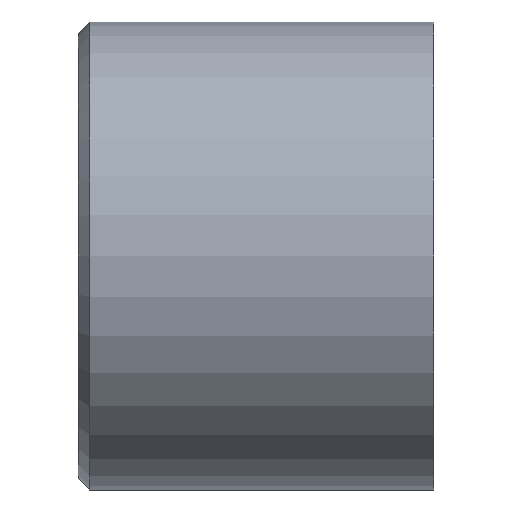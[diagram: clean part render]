
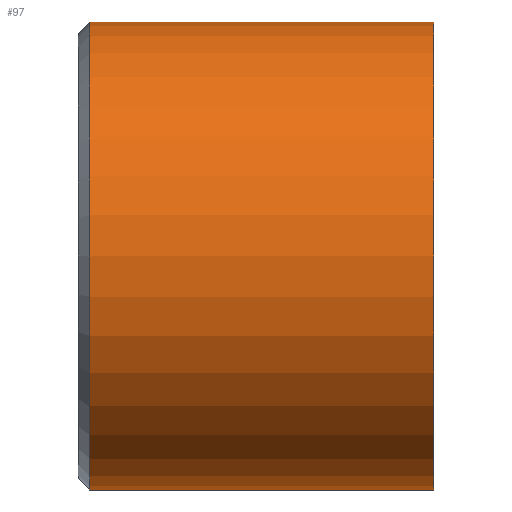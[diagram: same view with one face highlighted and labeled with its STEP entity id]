
A CAD part, left-side view. The second image highlights one B-rep face of the part: STEP entity #97.
In plain terms, the highlighted cylindrical face has radius 12.5 mm (diameter 25 mm), a full revolution.
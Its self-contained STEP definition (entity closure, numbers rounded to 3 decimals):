
#15=CYLINDRICAL_SURFACE('',#110,12.5);
#23=FACE_BOUND('',#42,.T.);
#31=FACE_OUTER_BOUND('',#41,.T.);
#41=EDGE_LOOP('',(#81));
#42=EDGE_LOOP('',(#82));
#53=CIRCLE('',#106,12.5);
#56=CIRCLE('',#111,12.5);
#61=VERTEX_POINT('',#157);
#64=VERTEX_POINT('',#165);
#69=EDGE_CURVE('',#61,#61,#53,.T.);
#72=EDGE_CURVE('',#64,#64,#56,.T.);
#81=ORIENTED_EDGE('',*,*,#72,.T.);
#82=ORIENTED_EDGE('',*,*,#69,.F.);
#97=ADVANCED_FACE('',(#31,#23),#15,.T.);
#106=AXIS2_PLACEMENT_3D('',#158,#125,#126);
#110=AXIS2_PLACEMENT_3D('',#164,#133,#134);
#111=AXIS2_PLACEMENT_3D('',#166,#135,#136);
#125=DIRECTION('center_axis',(0.,1.,0.));
#126=DIRECTION('ref_axis',(1.,0.,0.));
#133=DIRECTION('center_axis',(0.,1.,0.));
#134=DIRECTION('ref_axis',(-1.,0.,0.));
#135=DIRECTION('center_axis',(0.,1.,0.));
#136=DIRECTION('ref_axis',(1.,0.,0.));
#157=CARTESIAN_POINT('',(-12.5,18.375,0.));
#158=CARTESIAN_POINT('Origin',(0.,18.375,0.));
#164=CARTESIAN_POINT('Origin',(0.,9.5,0.));
#165=CARTESIAN_POINT('',(-12.5,0.,0.));
#166=CARTESIAN_POINT('Origin',(0.,0.,0.));
